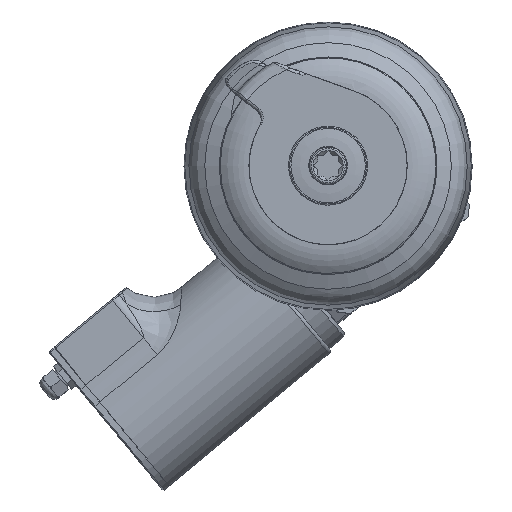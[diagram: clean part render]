
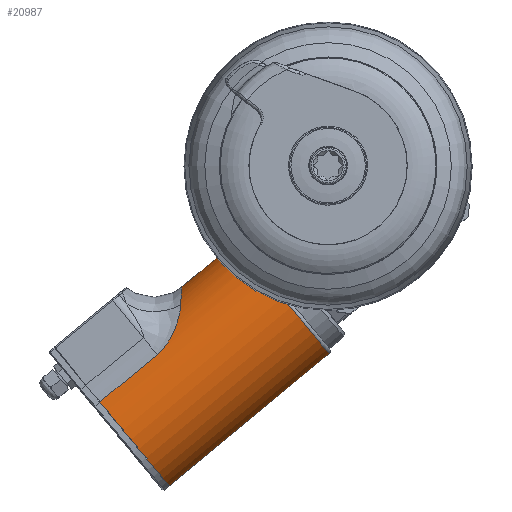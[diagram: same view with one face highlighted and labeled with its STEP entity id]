
A CAD part, top view. The second image highlights one B-rep face of the part: STEP entity #20987.
In plain terms, the highlighted cylindrical face has radius 62.5 mm (diameter 125 mm), a full revolution.
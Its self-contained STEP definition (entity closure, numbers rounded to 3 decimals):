
#565=B_SPLINE_CURVE_WITH_KNOTS('',3,(#36396,#36397,#36398,#36399,#36400,
#36401,#36402,#36403,#36404,#36405),.UNSPECIFIED.,.F.,.F.,(4,1,1,1,1,1,
1,4),(0.,4.664,9.327,18.655,
27.982,46.637,51.301,65.292),
 .UNSPECIFIED.);
#566=B_SPLINE_CURVE_WITH_KNOTS('',3,(#36407,#36408,#36409,#36410,#36411,
#36412,#36413,#36414,#36415,#36416,#36417,#36418),.UNSPECIFIED.,.F.,.F.,
(4,1,1,1,1,1,1,1,1,4),(0.,17.658,35.317,
44.146,52.975,70.634,79.463,92.706,
105.95,123.609),.UNSPECIFIED.);
#567=B_SPLINE_CURVE_WITH_KNOTS('',3,(#36420,#36421,#36422,#36423,#36424,
#36425,#36426,#36427,#36428,#36429),.UNSPECIFIED.,.F.,.F.,(4,1,1,1,1,1,
1,4),(0.,18.64,27.96,37.28,
46.6,55.921,60.581,65.241),
 .UNSPECIFIED.);
#1455=LINE('',#36394,#2917);
#1456=LINE('',#36430,#2918);
#2917=VECTOR('',#26066,63.955);
#2918=VECTOR('',#26067,63.955);
#4171=CYLINDRICAL_SURFACE('',#22602,62.5);
#4560=FACE_BOUND('',#6296,.T.);
#4976=FACE_OUTER_BOUND('',#6295,.T.);
#6295=EDGE_LOOP('',(#15496,#15497,#15498,#15499,#15500,#15501));
#6296=EDGE_LOOP('',(#15502));
#7546=CIRCLE('',#22603,62.5);
#7547=CIRCLE('',#22604,62.5);
#8878=VERTEX_POINT('',#36390);
#8879=VERTEX_POINT('',#36391);
#8880=VERTEX_POINT('',#36393);
#8881=VERTEX_POINT('',#36395);
#8882=VERTEX_POINT('',#36406);
#8883=VERTEX_POINT('',#36419);
#8884=VERTEX_POINT('',#36431);
#11329=EDGE_CURVE('',#8878,#8879,#7546,.T.);
#11330=EDGE_CURVE('',#8879,#8880,#1455,.T.);
#11331=EDGE_CURVE('',#8880,#8881,#565,.T.);
#11332=EDGE_CURVE('',#8881,#8882,#566,.T.);
#11333=EDGE_CURVE('',#8882,#8883,#567,.T.);
#11334=EDGE_CURVE('',#8883,#8878,#1456,.T.);
#11335=EDGE_CURVE('',#8884,#8884,#7547,.T.);
#15496=ORIENTED_EDGE('',*,*,#11329,.T.);
#15497=ORIENTED_EDGE('',*,*,#11330,.T.);
#15498=ORIENTED_EDGE('',*,*,#11331,.T.);
#15499=ORIENTED_EDGE('',*,*,#11332,.T.);
#15500=ORIENTED_EDGE('',*,*,#11333,.T.);
#15501=ORIENTED_EDGE('',*,*,#11334,.T.);
#15502=ORIENTED_EDGE('',*,*,#11335,.T.);
#20987=ADVANCED_FACE('',(#4976,#4560),#4171,.T.);
#22602=AXIS2_PLACEMENT_3D('',#36389,#26062,#26063);
#22603=AXIS2_PLACEMENT_3D('',#36392,#26064,#26065);
#22604=AXIS2_PLACEMENT_3D('',#36432,#26068,#26069);
#26062=DIRECTION('center_axis',(0.771,0.637,0.));
#26063=DIRECTION('ref_axis',(-0.637,0.771,0.));
#26064=DIRECTION('center_axis',(0.771,0.637,0.));
#26065=DIRECTION('ref_axis',(0.637,-0.771,0.));
#26066=DIRECTION('',(0.771,0.637,0.));
#26067=DIRECTION('',(-0.771,-0.637,0.));
#26068=DIRECTION('center_axis',(-0.771,-0.637,0.));
#26069=DIRECTION('ref_axis',(0.637,-0.771,0.));
#36389=CARTESIAN_POINT('Origin',(-52.112,-123.735,-160.8));
#36390=CARTESIAN_POINT('',(-196.277,-202.658,-106.54));
#36391=CARTESIAN_POINT('',(-196.277,-202.658,-215.06));
#36392=CARTESIAN_POINT('Origin',(-176.515,-226.565,-160.8));
#36393=CARTESIAN_POINT('',(-146.982,-161.911,-215.06));
#36394=CARTESIAN_POINT('',(-71.874,-99.828,-215.06));
#36395=CARTESIAN_POINT('',(-126.707,-118.794,-196.453));
#36396=CARTESIAN_POINT('Ctrl Pts',(-146.982,-161.911,
-215.06));
#36397=CARTESIAN_POINT('Ctrl Pts',(-145.784,-160.921,
-215.06));
#36398=CARTESIAN_POINT('Ctrl Pts',(-143.475,-158.784,-214.96));
#36399=CARTESIAN_POINT('Ctrl Pts',(-139.488,-154.203,
-214.385));
#36400=CARTESIAN_POINT('Ctrl Pts',(-135.619,-148.247,
-213.079));
#36401=CARTESIAN_POINT('Ctrl Pts',(-131.192,-139.031,
-210.101));
#36402=CARTESIAN_POINT('Ctrl Pts',(-128.826,-131.59,-206.494));
#36403=CARTESIAN_POINT('Ctrl Pts',(-127.161,-124.171,
-201.56));
#36404=CARTESIAN_POINT('Ctrl Pts',(-126.752,-120.884,
-198.731));
#36405=CARTESIAN_POINT('Ctrl Pts',(-126.707,-118.794,-196.453));
#36406=CARTESIAN_POINT('',(-126.707,-118.794,-125.147));
#36407=CARTESIAN_POINT('Ctrl Pts',(-126.707,-118.794,-196.453));
#36408=CARTESIAN_POINT('Ctrl Pts',(-126.649,-116.157,
-193.579));
#36409=CARTESIAN_POINT('Ctrl Pts',(-126.436,-111.34,
-187.39));
#36410=CARTESIAN_POINT('Ctrl Pts',(-126.13,-107.037,
-178.855));
#36411=CARTESIAN_POINT('Ctrl Pts',(-125.953,-104.837,
-171.767));
#36412=CARTESIAN_POINT('Ctrl Pts',(-125.835,-103.473,
-164.443));
#36413=CARTESIAN_POINT('Ctrl Pts',(-125.837,-103.492,
-157.021));
#36414=CARTESIAN_POINT('Ctrl Pts',(-125.968,-105.018,
-148.873));
#36415=CARTESIAN_POINT('Ctrl Pts',(-126.164,-107.469,-141.765));
#36416=CARTESIAN_POINT('Ctrl Pts',(-126.464,-111.962,
-133.42));
#36417=CARTESIAN_POINT('Ctrl Pts',(-126.649,-116.157,
-128.021));
#36418=CARTESIAN_POINT('Ctrl Pts',(-126.707,-118.794,
-125.147));
#36419=CARTESIAN_POINT('',(-146.982,-161.911,-106.54));
#36420=CARTESIAN_POINT('Ctrl Pts',(-126.707,-118.794,-125.147));
#36421=CARTESIAN_POINT('Ctrl Pts',(-126.767,-121.579,
-122.112));
#36422=CARTESIAN_POINT('Ctrl Pts',(-127.556,-126.757,
-117.974));
#36423=CARTESIAN_POINT('Ctrl Pts',(-129.849,-134.789,
-113.558));
#36424=CARTESIAN_POINT('Ctrl Pts',(-132.3,-141.354,-110.746));
#36425=CARTESIAN_POINT('Ctrl Pts',(-135.648,-148.294,
-108.509));
#36426=CARTESIAN_POINT('Ctrl Pts',(-139.494,-154.21,
-107.215));
#36427=CARTESIAN_POINT('Ctrl Pts',(-143.485,-158.795,
-106.639));
#36428=CARTESIAN_POINT('Ctrl Pts',(-145.785,-160.921,
-106.54));
#36429=CARTESIAN_POINT('Ctrl Pts',(-146.982,-161.911,-106.54));
#36430=CARTESIAN_POINT('',(-71.874,-99.828,-106.54));
#36431=CARTESIAN_POINT('',(-78.829,-64.731,-160.8));
#36432=CARTESIAN_POINT('Origin',(-39.009,-112.904,-160.8));
